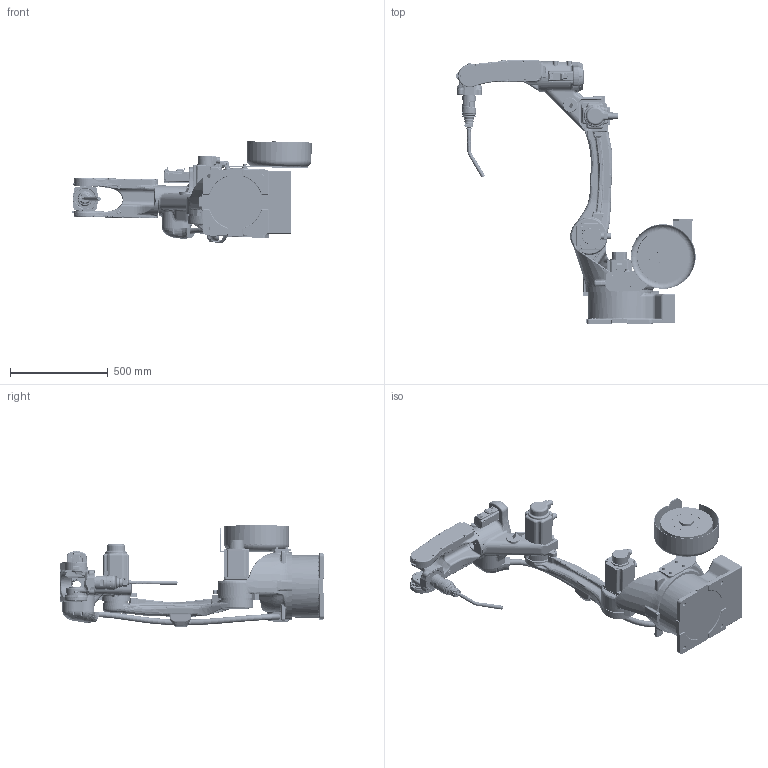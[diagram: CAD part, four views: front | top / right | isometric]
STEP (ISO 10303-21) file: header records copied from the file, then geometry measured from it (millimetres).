
FILE_DESCRIPTION(/* description */ (''),/* implementation_level */ '2;1');
FILE_NAME(/* name */ 'MR10-1440_阿波罗焊枪.stp',/* time_stamp */ '2024-07-03T11:43:02+08:00',/* author */ (''),/* organization */ (''),/* preprocessor_version */ 'ST-DEVELOPER v16.7',/* originating_system */ 'SIEMENS PLM Software NX 1847',/* authorisation */ '');
FILE_SCHEMA (('AUTOMOTIVE_DESIGN { 1 0 10303 214 3 1 1 1 }'));
Length unit declared in the file: millimetre
Products named in the file (1): JD33ECD99A0wpu
Bounding box: 1221.42 x 1351.49 x 516.79 mm (x, y, z)
Volume: 66375590.1 mm3; surface area: 4009031.4 mm2
Topology: 29 solids, 41 shells, 6783 faces, 16815 edges, 10128 vertices
Faces by surface type: cylinder 1949, plane 1891, bspline 1744, torus 751, cone 303, extrusion 73, sphere 60, revolution 12
Full cylindrical faces by diameter (mm): 2.5 x3, 3 x3, 3.2 x4, 3.3 x46, 3.5 x4, 4 x6, 4.2 x6, 5 x32, 5.5 x12, 6 x14, 6.2 x1, 6.6 x8, 6.8 x4, 8 x4, 8.5 x8, 16 x8, 18 x4, 20 x6, 24 x1, 25 x1, 30 x2, 31.75 x4, 38 x1, 44 x1, 48 x1, 50 x6, 58 x1, 62 x2, 67 x1, 70 x2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
Entity records: 319346 total; most frequent: CARTESIAN_POINT 164182, ORIENTED_EDGE 32080, DIRECTION 26807, EDGE_CURVE 16040, AXIS2_PLACEMENT_3D 10911, VERTEX_POINT 10052, EDGE_LOOP 7561, ADVANCED_FACE 6783
